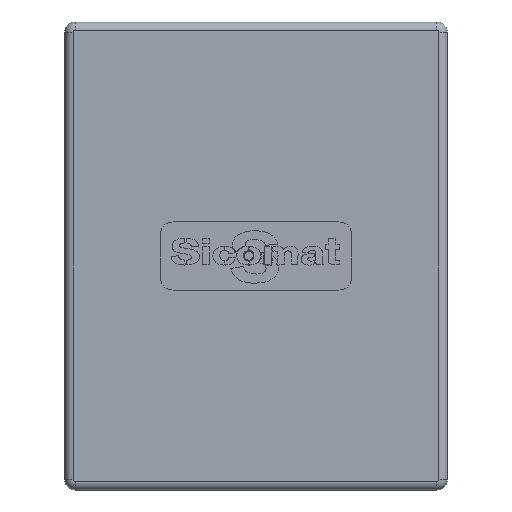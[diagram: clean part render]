
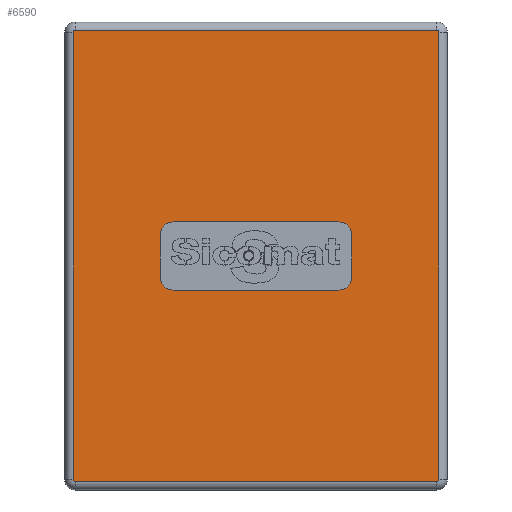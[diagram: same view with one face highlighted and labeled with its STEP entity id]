
A CAD part, top view. The second image highlights one B-rep face of the part: STEP entity #6590.
In plain terms, the highlighted planar face has unit normal (0, 0, 1).
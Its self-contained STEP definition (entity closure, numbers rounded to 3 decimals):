
#54 = CIRCLE ( 'NONE', #3408, 3. ) ;
#106 = LINE ( 'NONE', #5489, #108 ) ;
#108 = VECTOR ( 'NONE', #5731, 1000. ) ;
#111 = CIRCLE ( 'NONE', #3441, 3. ) ;
#112 = LINE ( 'NONE', #5507, #115 ) ;
#115 = VECTOR ( 'NONE', #5508, 1000. ) ;
#122 = LINE ( 'NONE', #5527, #126 ) ;
#126 = VECTOR ( 'NONE', #5524, 1000. ) ;
#179 = VECTOR ( 'NONE', #1228, 1000. ) ;
#180 = LINE ( 'NONE', #1239, #189 ) ;
#185 = LINE ( 'NONE', #928, #179 ) ;
#189 = VECTOR ( 'NONE', #1462, 1000. ) ;
#205 = CIRCLE ( 'NONE', #3480, 0.5 ) ;
#210 = LINE ( 'NONE', #1149, #215 ) ;
#215 = VECTOR ( 'NONE', #1131, 1000. ) ;
#245 = CIRCLE ( 'NONE', #3334, 3. ) ;
#248 = CIRCLE ( 'NONE', #3335, 0.5 ) ;
#255 = CIRCLE ( 'NONE', #3340, 0.5 ) ;
#275 = LINE ( 'NONE', #1749, #281 ) ;
#281 = VECTOR ( 'NONE', #1744, 1000. ) ;
#292 = LINE ( 'NONE', #1658, #295 ) ;
#295 = VECTOR ( 'NONE', #1670, 1000. ) ;
#306 = CIRCLE ( 'NONE', #3462, 0.5 ) ;
#399 = CIRCLE ( 'NONE', #3378, 3. ) ;
#543 = FACE_BOUND ( 'NONE', #3188, .T. ) ;
#548 = FACE_OUTER_BOUND ( 'NONE', #3236, .T. ) ;
#928 = CARTESIAN_POINT ( 'NONE',  ( 22.5, -8., 2.5 ) ) ;
#983 = DIRECTION ( 'NONE',  ( 0., 0., 1. ) ) ;
#1094 = DIRECTION ( 'NONE',  ( 1., 0., 0. ) ) ;
#1131 = DIRECTION ( 'NONE',  ( -1., 0., 0. ) ) ;
#1145 = CARTESIAN_POINT ( 'NONE',  ( -42.5, -52.5, 2.5 ) ) ;
#1149 = CARTESIAN_POINT ( 'NONE',  ( 22.5, 8., 2.5 ) ) ;
#1202 = DIRECTION ( 'NONE',  ( 0., 0., 1. ) ) ;
#1206 = DIRECTION ( 'NONE',  ( 0., 0., 1. ) ) ;
#1228 = DIRECTION ( 'NONE',  ( 0., 1., 0. ) ) ;
#1239 = CARTESIAN_POINT ( 'NONE',  ( 22.5, -8., 2.5 ) ) ;
#1462 = DIRECTION ( 'NONE',  ( 1., 0., 0. ) ) ;
#1464 = DIRECTION ( 'NONE',  ( 0., 0., -1. ) ) ;
#1465 = DIRECTION ( 'NONE',  ( 1., 0., 0. ) ) ;
#1658 = CARTESIAN_POINT ( 'NONE',  ( -43., -52.5, 2.5 ) ) ;
#1670 = DIRECTION ( 'NONE',  ( 0., -1., 0. ) ) ;
#1694 = DIRECTION ( 'NONE',  ( 1., 0., 0. ) ) ;
#1714 = CARTESIAN_POINT ( 'NONE',  ( -42.5, 52.5, 2.5 ) ) ;
#1744 = DIRECTION ( 'NONE',  ( 0., -1., 0. ) ) ;
#1749 = CARTESIAN_POINT ( 'NONE',  ( -22.5, -8., 2.5 ) ) ;
#1791 = DIRECTION ( 'NONE',  ( 1., 0., 0. ) ) ;
#1798 = DIRECTION ( 'NONE',  ( 0., 0., 1. ) ) ;
#1807 = CARTESIAN_POINT ( 'NONE',  ( 42.5, 52.5, 2.5 ) ) ;
#1816 = DIRECTION ( 'NONE',  ( 1., 0., 0. ) ) ;
#1819 = DIRECTION ( 'NONE',  ( 1., 0., 0. ) ) ;
#1831 = CARTESIAN_POINT ( 'NONE',  ( 42.5, -52.5, 2.5 ) ) ;
#1832 = DIRECTION ( 'NONE',  ( 0., 0., -1. ) ) ;
#1837 = CARTESIAN_POINT ( 'NONE',  ( -19.5, 5., 2.5 ) ) ;
#1855 = CARTESIAN_POINT ( 'NONE',  ( -19.5, -5., 2.5 ) ) ;
#2556 = CARTESIAN_POINT ( 'NONE',  ( 0., 0., 2.5 ) ) ;
#2557 = PLANE ( 'NONE',  #4029 ) ;
#2562 = DIRECTION ( 'NONE',  ( 0., 0., 1. ) ) ;
#2563 = DIRECTION ( 'NONE',  ( 1., 0., 0. ) ) ;
#3188 = EDGE_LOOP ( 'NONE', ( #5922, #4617, #4440, #4629, #4410, #4274, #5874, #4756 ) ) ;
#3236 = EDGE_LOOP ( 'NONE', ( #4342, #5942, #4356, #5916, #5899, #4478, #4697, #4794 ) ) ;
#3334 = AXIS2_PLACEMENT_3D ( 'NONE', #1837, #1832, #1819 ) ;
#3335 = AXIS2_PLACEMENT_3D ( 'NONE', #1831, #1202, #1816 ) ;
#3340 = AXIS2_PLACEMENT_3D ( 'NONE', #1807, #1798, #1791 ) ;
#3378 = AXIS2_PLACEMENT_3D ( 'NONE', #1855, #1464, #1465 ) ;
#3408 = AXIS2_PLACEMENT_3D ( 'NONE', #5673, #5672, #5671 ) ;
#3441 = AXIS2_PLACEMENT_3D ( 'NONE', #5504, #5505, #5506 ) ;
#3462 = AXIS2_PLACEMENT_3D ( 'NONE', #1714, #1206, #1694 ) ;
#3480 = AXIS2_PLACEMENT_3D ( 'NONE', #1145, #983, #1094 ) ;
#3510 = EDGE_CURVE ( 'NONE', #3677, #3743, #54, .T. ) ;
#3668 = VERTEX_POINT ( 'NONE', #5044 ) ;
#3674 = VERTEX_POINT ( 'NONE', #5183 ) ;
#3677 = VERTEX_POINT ( 'NONE', #5184 ) ;
#3681 = VERTEX_POINT ( 'NONE', #5182 ) ;
#3683 = VERTEX_POINT ( 'NONE', #5051 ) ;
#3686 = VERTEX_POINT ( 'NONE', #5187 ) ;
#3706 = VERTEX_POINT ( 'NONE', #5074 ) ;
#3736 = VERTEX_POINT ( 'NONE', #5072 ) ;
#3743 = VERTEX_POINT ( 'NONE', #5005 ) ;
#3755 = VERTEX_POINT ( 'NONE', #5011 ) ;
#3766 = VERTEX_POINT ( 'NONE', #5006 ) ;
#3800 = VERTEX_POINT ( 'NONE', #4984 ) ;
#3834 = VERTEX_POINT ( 'NONE', #4928 ) ;
#4029 = AXIS2_PLACEMENT_3D ( 'NONE', #2556, #2562, #2563 ) ;
#4274 = ORIENTED_EDGE ( 'NONE', *, *, #4848, .T. ) ;
#4342 = ORIENTED_EDGE ( 'NONE', *, *, #6390, .T. ) ;
#4356 = ORIENTED_EDGE ( 'NONE', *, *, #4858, .T. ) ;
#4410 = ORIENTED_EDGE ( 'NONE', *, *, #5791, .F. ) ;
#4440 = ORIENTED_EDGE ( 'NONE', *, *, #5813, .F. ) ;
#4461 = VERTEX_POINT ( 'NONE', #5340 ) ;
#4478 = ORIENTED_EDGE ( 'NONE', *, *, #6362, .T. ) ;
#4609 = VERTEX_POINT ( 'NONE', #5263 ) ;
#4617 = ORIENTED_EDGE ( 'NONE', *, *, #5834, .T. ) ;
#4629 = ORIENTED_EDGE ( 'NONE', *, *, #3510, .T. ) ;
#4697 = ORIENTED_EDGE ( 'NONE', *, *, #4844, .T. ) ;
#4756 = ORIENTED_EDGE ( 'NONE', *, *, #6476, .T. ) ;
#4775 = VERTEX_POINT ( 'NONE', #5439 ) ;
#4794 = ORIENTED_EDGE ( 'NONE', *, *, #6400, .T. ) ;
#4844 = EDGE_CURVE ( 'NONE', #4775, #4461, #106, .T. ) ;
#4848 = EDGE_CURVE ( 'NONE', #3706, #3834, #111, .T. ) ;
#4850 = EDGE_CURVE ( 'NONE', #3766, #3755, #112, .T. ) ;
#4858 = EDGE_CURVE ( 'NONE', #3683, #3736, #122, .T. ) ;
#4928 = CARTESIAN_POINT ( 'NONE',  ( 19.5, -8., 2.5 ) ) ;
#4984 = CARTESIAN_POINT ( 'NONE',  ( -22.5, -5., 2.5 ) ) ;
#5005 = CARTESIAN_POINT ( 'NONE',  ( 22.5, 5., 2.5 ) ) ;
#5006 = CARTESIAN_POINT ( 'NONE',  ( 43., -52.5, 2.5 ) ) ;
#5011 = CARTESIAN_POINT ( 'NONE',  ( 43., 52.5, 2.5 ) ) ;
#5044 = CARTESIAN_POINT ( 'NONE',  ( -19.5, 8., 2.5 ) ) ;
#5051 = CARTESIAN_POINT ( 'NONE',  ( -42.5, -53., 2.5 ) ) ;
#5072 = CARTESIAN_POINT ( 'NONE',  ( 42.5, -53., 2.5 ) ) ;
#5074 = CARTESIAN_POINT ( 'NONE',  ( 22.5, -5., 2.5 ) ) ;
#5182 = CARTESIAN_POINT ( 'NONE',  ( -43., -52.5, 2.5 ) ) ;
#5183 = CARTESIAN_POINT ( 'NONE',  ( -22.5, 5., 2.5 ) ) ;
#5184 = CARTESIAN_POINT ( 'NONE',  ( 19.5, 8., 2.5 ) ) ;
#5187 = CARTESIAN_POINT ( 'NONE',  ( -43., 52.5, 2.5 ) ) ;
#5263 = CARTESIAN_POINT ( 'NONE',  ( -19.5, -8., 2.5 ) ) ;
#5340 = CARTESIAN_POINT ( 'NONE',  ( -42.5, 53., 2.5 ) ) ;
#5439 = CARTESIAN_POINT ( 'NONE',  ( 42.5, 53., 2.5 ) ) ;
#5489 = CARTESIAN_POINT ( 'NONE',  ( -42.5, 53., 2.5 ) ) ;
#5504 = CARTESIAN_POINT ( 'NONE',  ( 19.5, -5., 2.5 ) ) ;
#5505 = DIRECTION ( 'NONE',  ( 0., 0., -1. ) ) ;
#5506 = DIRECTION ( 'NONE',  ( 1., 0., 0. ) ) ;
#5507 = CARTESIAN_POINT ( 'NONE',  ( 43., 52.5, 2.5 ) ) ;
#5508 = DIRECTION ( 'NONE',  ( 0., 1., 0. ) ) ;
#5524 = DIRECTION ( 'NONE',  ( 1., 0., 0. ) ) ;
#5527 = CARTESIAN_POINT ( 'NONE',  ( 42.5, -53., 2.5 ) ) ;
#5671 = DIRECTION ( 'NONE',  ( 1., 0., 0. ) ) ;
#5672 = DIRECTION ( 'NONE',  ( 0., 0., -1. ) ) ;
#5673 = CARTESIAN_POINT ( 'NONE',  ( 19.5, 5., 2.5 ) ) ;
#5731 = DIRECTION ( 'NONE',  ( -1., 0., 0. ) ) ;
#5791 = EDGE_CURVE ( 'NONE', #3706, #3743, #185, .T. ) ;
#5793 = EDGE_CURVE ( 'NONE', #4609, #3834, #180, .T. ) ;
#5808 = EDGE_CURVE ( 'NONE', #3681, #3683, #205, .T. ) ;
#5813 = EDGE_CURVE ( 'NONE', #3677, #3668, #210, .T. ) ;
#5834 = EDGE_CURVE ( 'NONE', #3674, #3668, #245, .T. ) ;
#5836 = EDGE_CURVE ( 'NONE', #3736, #3766, #248, .T. ) ;
#5874 = ORIENTED_EDGE ( 'NONE', *, *, #5793, .F. ) ;
#5899 = ORIENTED_EDGE ( 'NONE', *, *, #4850, .T. ) ;
#5916 = ORIENTED_EDGE ( 'NONE', *, *, #5836, .T. ) ;
#5922 = ORIENTED_EDGE ( 'NONE', *, *, #6380, .F. ) ;
#5942 = ORIENTED_EDGE ( 'NONE', *, *, #5808, .T. ) ;
#6362 = EDGE_CURVE ( 'NONE', #3755, #4775, #255, .T. ) ;
#6380 = EDGE_CURVE ( 'NONE', #3674, #3800, #275, .T. ) ;
#6390 = EDGE_CURVE ( 'NONE', #3686, #3681, #292, .T. ) ;
#6400 = EDGE_CURVE ( 'NONE', #4461, #3686, #306, .T. ) ;
#6476 = EDGE_CURVE ( 'NONE', #4609, #3800, #399, .T. ) ;
#6590 = ADVANCED_FACE ( 'NONE', ( #543, #548 ), #2557, .T. ) ;
